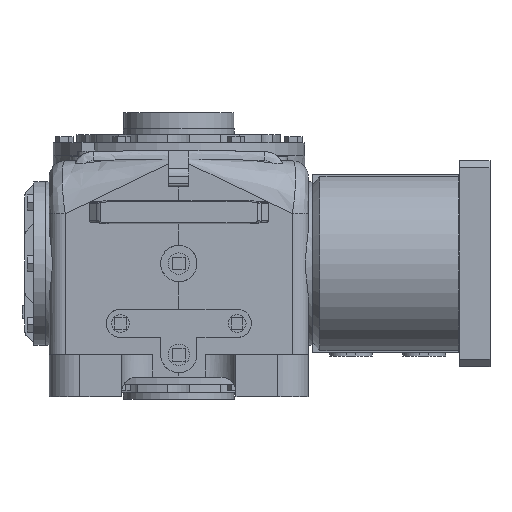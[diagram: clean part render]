
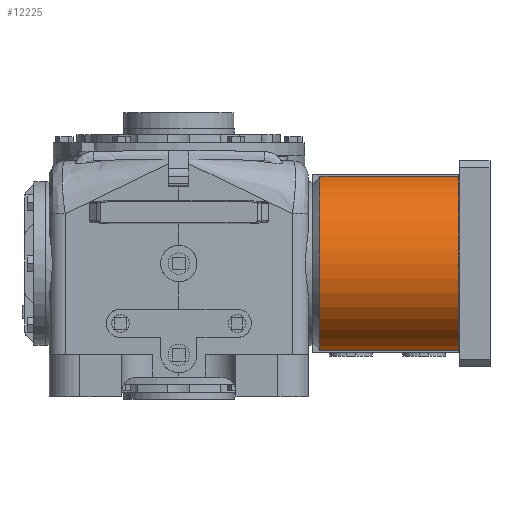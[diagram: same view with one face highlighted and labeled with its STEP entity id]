
A CAD part, front view. The second image highlights one B-rep face of the part: STEP entity #12225.
In plain terms, the highlighted cylindrical face has radius 112.713 mm (diameter 225.425 mm), a partial arc.
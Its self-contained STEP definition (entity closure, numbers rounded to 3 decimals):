
#437=CYLINDRICAL_SURFACE('',#15206,112.713);
#1432=LINE('',#29317,#2472);
#1436=LINE('',#29324,#2476);
#2472=VECTOR('',#18248,1000.);
#2476=VECTOR('',#18258,1000.);
#5936=ORIENTED_EDGE('',*,*,#7683,.F.);
#5937=ORIENTED_EDGE('',*,*,#7723,.F.);
#5938=ORIENTED_EDGE('',*,*,#7699,.T.);
#5939=ORIENTED_EDGE('',*,*,#7727,.T.);
#7683=EDGE_CURVE('',#8872,#8873,#9280,.T.);
#7699=EDGE_CURVE('',#8888,#8887,#9287,.T.);
#7723=EDGE_CURVE('',#8888,#8872,#1432,.T.);
#7727=EDGE_CURVE('',#8887,#8873,#1436,.T.);
#8872=VERTEX_POINT('',#29221);
#8873=VERTEX_POINT('',#29223);
#8887=VERTEX_POINT('',#29260);
#8888=VERTEX_POINT('',#29262);
#9280=CIRCLE('',#15172,112.713);
#9287=CIRCLE('',#15184,112.713);
#10148=EDGE_LOOP('',(#5936,#5937,#5938,#5939));
#11051=FACE_BOUND('',#10148,.T.);
#12225=ADVANCED_FACE('',(#11051),#437,.T.);
#15172=AXIS2_PLACEMENT_3D('',#29222,#18165,#18166);
#15184=AXIS2_PLACEMENT_3D('',#29261,#18197,#18198);
#15206=AXIS2_PLACEMENT_3D('',#29326,#18261,#18262);
#18165=DIRECTION('',(1.,0.,0.));
#18166=DIRECTION('',(0.,0.,-1.));
#18197=DIRECTION('',(1.,0.,0.));
#18198=DIRECTION('',(0.,0.,-1.));
#18248=DIRECTION('',(1.,0.,0.));
#18258=DIRECTION('',(1.,0.,0.));
#18261=DIRECTION('',(1.,0.,0.));
#18262=DIRECTION('',(0.,0.,-1.));
#29221=CARTESIAN_POINT('',(185.014,-24.719,109.968));
#29222=CARTESIAN_POINT('',(185.014,0.,0.));
#29223=CARTESIAN_POINT('',(185.014,-24.713,-109.97));
#29260=CARTESIAN_POINT('',(9.804,-24.713,-109.97));
#29261=CARTESIAN_POINT('',(9.804,0.,0.));
#29262=CARTESIAN_POINT('',(9.804,-24.719,109.968));
#29317=CARTESIAN_POINT('',(122.103,-24.719,109.968));
#29324=CARTESIAN_POINT('',(122.103,-24.713,-109.97));
#29326=CARTESIAN_POINT('',(122.103,0.,0.));
